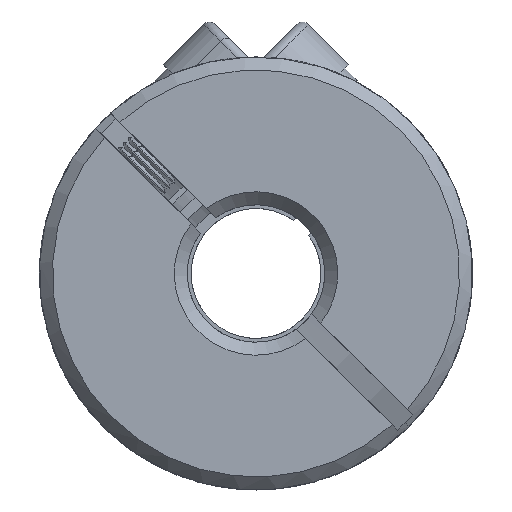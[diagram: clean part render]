
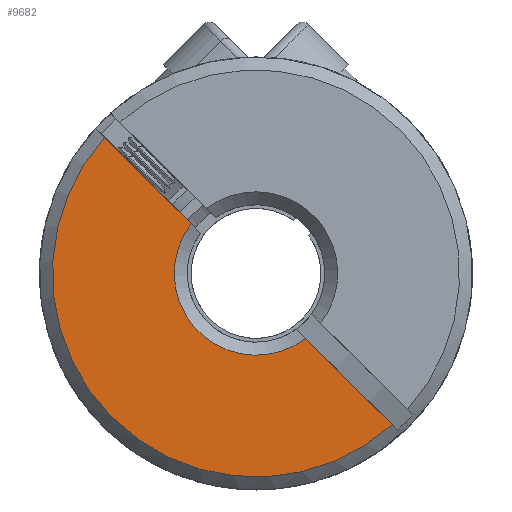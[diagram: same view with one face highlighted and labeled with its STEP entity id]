
A CAD part, front view. The second image highlights one B-rep face of the part: STEP entity #9682.
In plain terms, the highlighted planar face has unit normal (0, -1, 0).
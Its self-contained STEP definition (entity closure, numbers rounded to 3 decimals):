
#150 = VERTEX_POINT ( 'NONE', #4484 ) ;
#362 = ORIENTED_EDGE ( 'NONE', *, *, #10144, .T. ) ;
#543 = CARTESIAN_POINT ( 'NONE',  ( 0., -11.2, 0. ) ) ;
#950 = CIRCLE ( 'NONE', #5441, 9.4 ) ;
#1058 = VERTEX_POINT ( 'NONE', #8436 ) ;
#1220 = VECTOR ( 'NONE', #3627, 1000. ) ;
#1462 = CARTESIAN_POINT ( 'NONE',  ( -6.991, -11.2, 6.284 ) ) ;
#1782 = EDGE_CURVE ( 'NONE', #150, #13643, #4634, .T. ) ;
#1946 = VECTOR ( 'NONE', #13815, 1000. ) ;
#2054 = DIRECTION ( 'NONE',  ( 0., -1., 0. ) ) ;
#2423 = PLANE ( 'NONE',  #7344 ) ;
#2881 = EDGE_LOOP ( 'NONE', ( #11051, #362, #10063, #8705 ) ) ;
#3627 = DIRECTION ( 'NONE',  ( -0.707, 0., 0.707 ) ) ;
#4305 = LINE ( 'NONE', #12856, #1220 ) ;
#4380 = DIRECTION ( 'NONE',  ( -0.707, 0., 0.707 ) ) ;
#4484 = CARTESIAN_POINT ( 'NONE',  ( 2.292, -11.2, -2.999 ) ) ;
#4593 = CARTESIAN_POINT ( 'NONE',  ( 45.083, -11.2, 25.627 ) ) ;
#4634 = CIRCLE ( 'NONE', #12149, 3.775 ) ;
#5150 = DIRECTION ( 'NONE',  ( 0., 1., 0. ) ) ;
#5272 = FACE_OUTER_BOUND ( 'NONE', #2881, .T. ) ;
#5441 = AXIS2_PLACEMENT_3D ( 'NONE', #9134, #2054, #4380 ) ;
#5779 = DIRECTION ( 'NONE',  ( -0.707, 0., 0.707 ) ) ;
#5963 = CARTESIAN_POINT ( 'NONE',  ( -2.999, -11.2, 2.292 ) ) ;
#7344 = AXIS2_PLACEMENT_3D ( 'NONE', #4593, #14991, #5779 ) ;
#7526 = DIRECTION ( 'NONE',  ( -0.707, 0., 0.707 ) ) ;
#7675 = EDGE_CURVE ( 'NONE', #1058, #150, #14746, .T. ) ;
#8436 = CARTESIAN_POINT ( 'NONE',  ( 6.284, -11.2, -6.991 ) ) ;
#8705 = ORIENTED_EDGE ( 'NONE', *, *, #1782, .T. ) ;
#9134 = CARTESIAN_POINT ( 'NONE',  ( 0., -11.2, 0. ) ) ;
#9682 = ADVANCED_FACE ( 'NONE', ( #5272 ), #2423, .T. ) ;
#10063 = ORIENTED_EDGE ( 'NONE', *, *, #7675, .T. ) ;
#10144 = EDGE_CURVE ( 'NONE', #13088, #1058, #950, .T. ) ;
#10208 = CARTESIAN_POINT ( 'NONE',  ( -8.839, -11.2, 8.132 ) ) ;
#11051 = ORIENTED_EDGE ( 'NONE', *, *, #13469, .T. ) ;
#12149 = AXIS2_PLACEMENT_3D ( 'NONE', #543, #5150, #7526 ) ;
#12856 = CARTESIAN_POINT ( 'NONE',  ( 0.205, -11.2, -0.912 ) ) ;
#13088 = VERTEX_POINT ( 'NONE', #1462 ) ;
#13469 = EDGE_CURVE ( 'NONE', #13643, #13088, #4305, .T. ) ;
#13643 = VERTEX_POINT ( 'NONE', #5963 ) ;
#13815 = DIRECTION ( 'NONE',  ( -0.707, 0., 0.707 ) ) ;
#14746 = LINE ( 'NONE', #10208, #1946 ) ;
#14991 = DIRECTION ( 'NONE',  ( 0., -1., 0. ) ) ;
